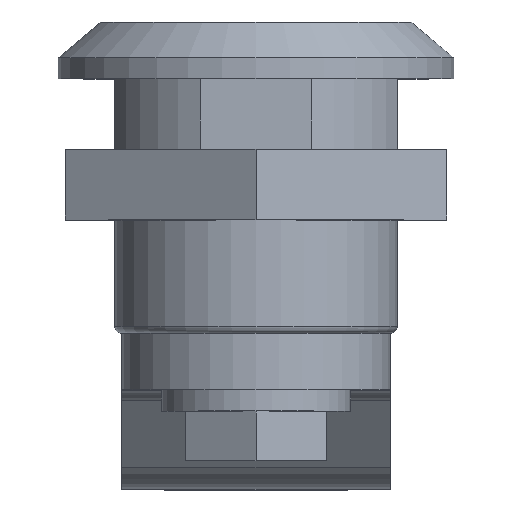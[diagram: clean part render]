
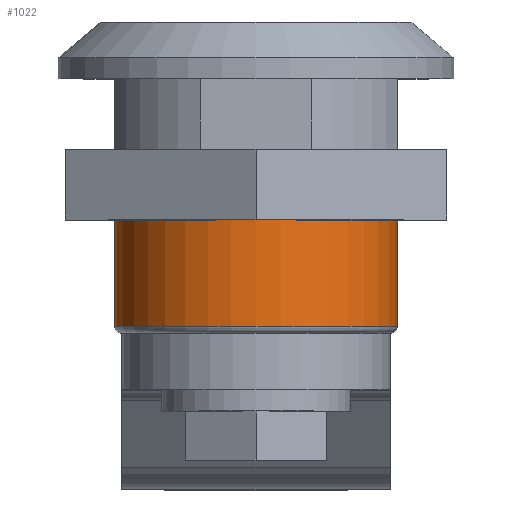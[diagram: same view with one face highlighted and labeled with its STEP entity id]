
A CAD part, top view. The second image highlights one B-rep face of the part: STEP entity #1022.
In plain terms, the highlighted cylindrical face has radius 10 mm (diameter 20 mm), a full revolution.
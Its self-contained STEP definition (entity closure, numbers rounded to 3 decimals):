
#58 = ORIENTED_EDGE ( 'NONE', *, *, #1397, .T. ) ;
#68 = DIRECTION ( 'NONE',  ( 0., -1., 0. ) ) ;
#118 = EDGE_LOOP ( 'NONE', ( #58 ) ) ;
#218 = CARTESIAN_POINT ( 'NONE',  ( 0., 0.5, -10. ) ) ;
#397 = AXIS2_PLACEMENT_3D ( 'NONE', #489, #1000, #872 ) ;
#459 = VERTEX_POINT ( 'NONE', #218 ) ;
#464 = FACE_OUTER_BOUND ( 'NONE', #741, .T. ) ;
#489 = CARTESIAN_POINT ( 'NONE',  ( 0., 8., 0. ) ) ;
#527 = ORIENTED_EDGE ( 'NONE', *, *, #1163, .T. ) ;
#638 = CIRCLE ( 'NONE', #1148, 10. ) ;
#723 = FACE_OUTER_BOUND ( 'NONE', #118, .T. ) ;
#741 = EDGE_LOOP ( 'NONE', ( #527 ) ) ;
#767 = DIRECTION ( 'NONE',  ( 0., 0., -1. ) ) ;
#872 = DIRECTION ( 'NONE',  ( 0., 0., -1. ) ) ;
#959 = VERTEX_POINT ( 'NONE', #1482 ) ;
#984 = CARTESIAN_POINT ( 'NONE',  ( 0., 0., 0. ) ) ;
#1000 = DIRECTION ( 'NONE',  ( 0., -1., 0. ) ) ;
#1022 = ADVANCED_FACE ( 'NONE', ( #723, #464 ), #1616, .T. ) ;
#1101 = CARTESIAN_POINT ( 'NONE',  ( 0., 0.5, 0. ) ) ;
#1103 = DIRECTION ( 'NONE',  ( 0., 0., -1. ) ) ;
#1148 = AXIS2_PLACEMENT_3D ( 'NONE', #1101, #1628, #767 ) ;
#1163 = EDGE_CURVE ( 'NONE', #959, #959, #1209, .T. ) ;
#1173 = AXIS2_PLACEMENT_3D ( 'NONE', #984, #68, #1103 ) ;
#1209 = CIRCLE ( 'NONE', #397, 10. ) ;
#1397 = EDGE_CURVE ( 'NONE', #459, #459, #638, .T. ) ;
#1482 = CARTESIAN_POINT ( 'NONE',  ( 0., 8., -10. ) ) ;
#1616 = CYLINDRICAL_SURFACE ( 'NONE', #1173, 10. ) ;
#1628 = DIRECTION ( 'NONE',  ( 0., 1., 0. ) ) ;
